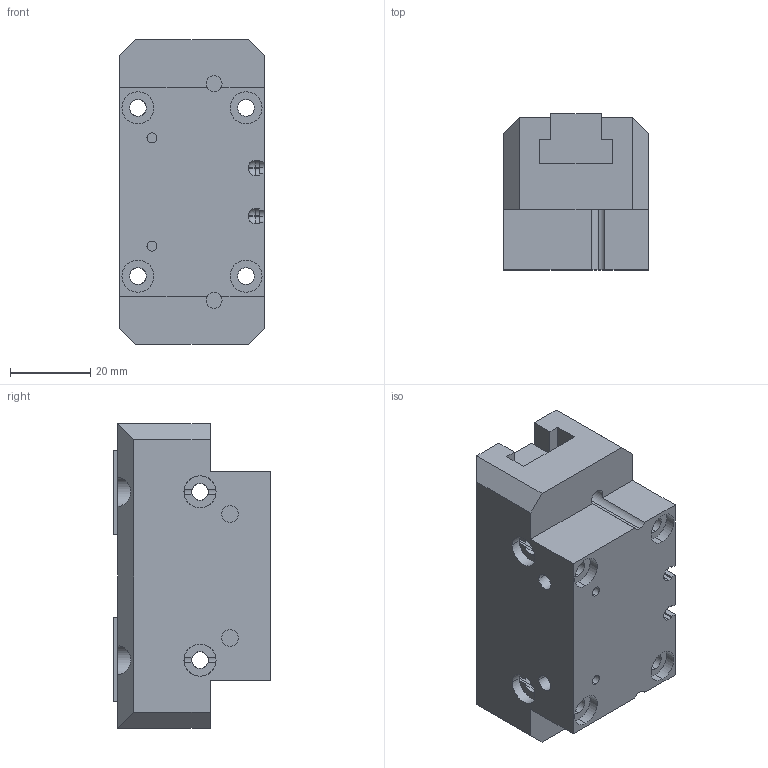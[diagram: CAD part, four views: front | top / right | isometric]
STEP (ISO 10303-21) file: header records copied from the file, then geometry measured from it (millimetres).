
FILE_DESCRIPTION (( 'STEP AP203' ), '1' );
FILE_NAME ('dh2712.STEP', '2011-08-03T08:26:26', ( 'Stefano' ), ( 'Gimatic' ), 'SwSTEP 2.0', 'SolidWorks 2010', '' );
FILE_SCHEMA (( 'CONFIG_CONTROL_DESIGN' ));
Length unit declared in the file: millimetre
Products named in the file (3): dh27_griffa; dh2712; dh27_corpo
Assembly tree (3 placements, depth 2):
  dh2712
    dh27_griffa  x2
    dh27_corpo
Bounding box: 36 x 39 x 76 mm (x, y, z)
Volume: 79314.5 mm3; surface area: 24294 mm2
Topology: 3 solids, 3 shells, 196 faces, 512 edges, 328 vertices
Faces by surface type: plane 98, cylinder 94, sphere 4
Entity records: 5899 total; most frequent: CARTESIAN_POINT 1232, DIRECTION 922, ORIENTED_EDGE 908, EDGE_CURVE 454, AXIS2_PLACEMENT_3D 334, VERTEX_POINT 292, VECTOR 254, LINE 254
